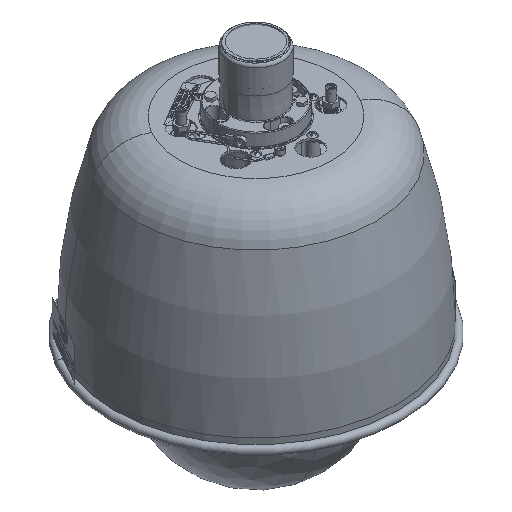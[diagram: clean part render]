
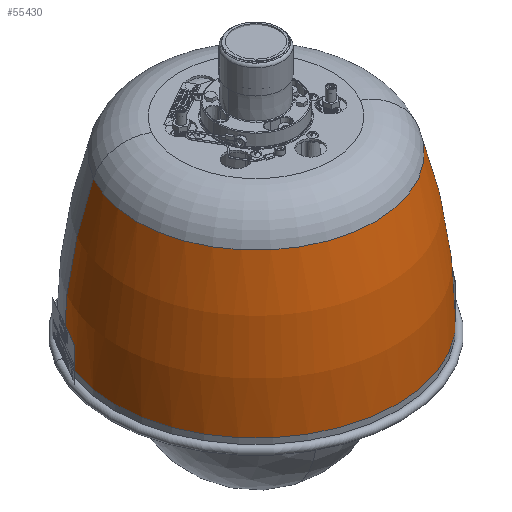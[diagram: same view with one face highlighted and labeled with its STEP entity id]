
A CAD part, isometric view. The second image highlights one B-rep face of the part: STEP entity #55430.
In plain terms, the highlighted toroidal (fillet/blend) face has major radius 379.73 mm and minor radius 518.933 mm.
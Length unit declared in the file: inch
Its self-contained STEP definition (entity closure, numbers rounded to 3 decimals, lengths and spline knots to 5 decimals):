
#995 = FACE_OUTER_BOUND ( 'NONE', #69471, .T. ) ;
#1421 = DIRECTION ( 'NONE',  ( -0.866, 0.5, 0. ) ) ;
#1967 = ORIENTED_EDGE ( 'NONE', *, *, #15759, .F. ) ;
#7866 = AXIS2_PLACEMENT_3D ( 'NONE', #112837, #113701, #55044 ) ;
#8891 = VERTEX_POINT ( 'NONE', #62599 ) ;
#15759 = EDGE_CURVE ( 'NONE', #84934, #87706, #25665, .T. ) ;
#16100 = ORIENTED_EDGE ( 'NONE', *, *, #87624, .F. ) ;
#16715 = VERTEX_POINT ( 'NONE', #24211 ) ;
#17025 = AXIS2_PLACEMENT_3D ( 'NONE', #118758, #60072, #1421 ) ;
#22377 = EDGE_CURVE ( 'NONE', #16715, #8891, #32096, .T. ) ;
#24211 = CARTESIAN_POINT ( 'NONE',  ( -4.74582, 2.74, 0.56326 ) ) ;
#25665 = CIRCLE ( 'NONE', #124766, 4.62509 ) ;
#31520 = DIRECTION ( 'NONE',  ( 0., 0., 1. ) ) ;
#32096 = CIRCLE ( 'NONE', #52826, 5.48 ) ;
#35224 = DIRECTION ( 'NONE',  ( -0.5, -0.866, 0. ) ) ;
#42822 = CIRCLE ( 'NONE', #116561, 20.43044 ) ;
#46497 = DIRECTION ( 'NONE',  ( 0., 0., 1. ) ) ;
#52826 = AXIS2_PLACEMENT_3D ( 'NONE', #105122, #46497, #114952 ) ;
#54954 = ORIENTED_EDGE ( 'NONE', *, *, #104699, .T. ) ;
#55044 = DIRECTION ( 'NONE',  ( -0.866, 0.5, 0. ) ) ;
#55430 = ADVANCED_FACE ( 'NONE', ( #995 ), #118958, .T. ) ;
#60072 = DIRECTION ( 'NONE',  ( 0.5, 0.866, 0. ) ) ;
#62599 = CARTESIAN_POINT ( 'NONE',  ( 4.74582, -2.74, 0.56326 ) ) ;
#69471 = EDGE_LOOP ( 'NONE', ( #76687, #54954, #1967, #16100 ) ) ;
#72303 = CARTESIAN_POINT ( 'NONE',  ( -4.00545, 2.31255, 6.27834 ) ) ;
#76687 = ORIENTED_EDGE ( 'NONE', *, *, #22377, .T. ) ;
#84934 = VERTEX_POINT ( 'NONE', #72303 ) ;
#87624 = EDGE_CURVE ( 'NONE', #16715, #84934, #111148, .T. ) ;
#87706 = VERTEX_POINT ( 'NONE', #92981 ) ;
#90223 = CARTESIAN_POINT ( 'NONE',  ( 0., 0., 6.27834 ) ) ;
#92981 = CARTESIAN_POINT ( 'NONE',  ( 4.00545, -2.31255, 6.27834 ) ) ;
#93913 = CARTESIAN_POINT ( 'NONE',  ( -12.94708, 7.475, 0.42866 ) ) ;
#100075 = DIRECTION ( 'NONE',  ( -0.866, 0.5, 0. ) ) ;
#103744 = DIRECTION ( 'NONE',  ( 0.866, -0.5, 0. ) ) ;
#104699 = EDGE_CURVE ( 'NONE', #8891, #87706, #42822, .T. ) ;
#105122 = CARTESIAN_POINT ( 'NONE',  ( 0., 0., 0.56326 ) ) ;
#111148 = CIRCLE ( 'NONE', #17025, 20.43044 ) ;
#112837 = CARTESIAN_POINT ( 'NONE',  ( 0., 0., 0.42866 ) ) ;
#113701 = DIRECTION ( 'NONE',  ( 0., 0., 1. ) ) ;
#114952 = DIRECTION ( 'NONE',  ( -0.866, 0.5, 0. ) ) ;
#116561 = AXIS2_PLACEMENT_3D ( 'NONE', #93913, #35224, #103744 ) ;
#118758 = CARTESIAN_POINT ( 'NONE',  ( 12.94708, -7.475, 0.42866 ) ) ;
#118958 = TOROIDAL_SURFACE ( 'NONE', #7866, -14.95, 20.43044 ) ;
#124766 = AXIS2_PLACEMENT_3D ( 'NONE', #90223, #31520, #100075 ) ;
